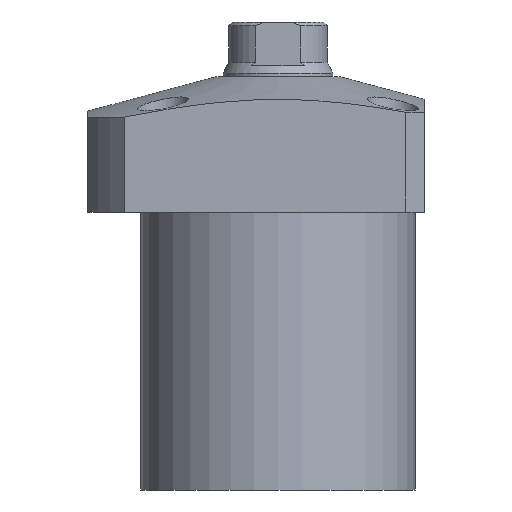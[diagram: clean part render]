
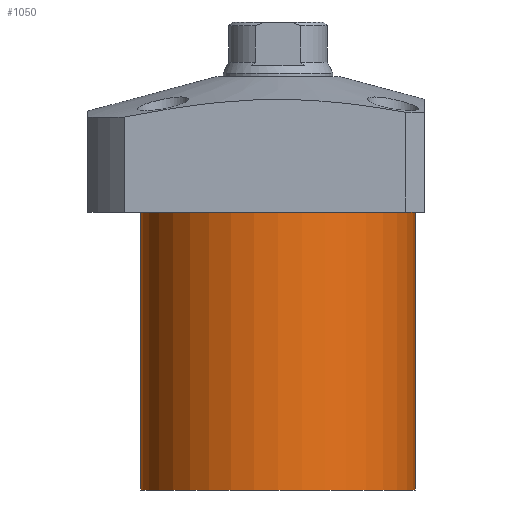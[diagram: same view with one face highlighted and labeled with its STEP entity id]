
A CAD part, front view. The second image highlights one B-rep face of the part: STEP entity #1050.
In plain terms, the highlighted cylindrical face has radius 37.5 mm (diameter 75 mm), a partial arc.
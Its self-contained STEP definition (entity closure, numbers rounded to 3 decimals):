
#35 = DIRECTION ( 'NONE',  ( 0., 0., 1. ) ) ;
#48 = EDGE_CURVE ( 'NONE', #1590, #810, #1524, .T. ) ;
#88 = VECTOR ( 'NONE', #2145, 1000. ) ;
#90 = ORIENTED_EDGE ( 'NONE', *, *, #48, .T. ) ;
#205 = DIRECTION ( 'NONE',  ( 1., 0., 0. ) ) ;
#370 = DIRECTION ( 'NONE',  ( 0., 0., 1. ) ) ;
#611 = CARTESIAN_POINT ( 'NONE',  ( 37.5, 0., -18.5 ) ) ;
#659 = CARTESIAN_POINT ( 'NONE',  ( -37.5, 0., -18.5 ) ) ;
#722 = VERTEX_POINT ( 'NONE', #1742 ) ;
#762 = CYLINDRICAL_SURFACE ( 'NONE', #1139, 37.5 ) ;
#775 = CARTESIAN_POINT ( 'NONE',  ( 0., 0., -94.5 ) ) ;
#810 = VERTEX_POINT ( 'NONE', #611 ) ;
#910 = VERTEX_POINT ( 'NONE', #659 ) ;
#990 = DIRECTION ( 'NONE',  ( 0., 0., -1. ) ) ;
#995 = ORIENTED_EDGE ( 'NONE', *, *, #1932, .F. ) ;
#1050 = ADVANCED_FACE ( 'NONE', ( #1763 ), #762, .T. ) ;
#1083 = CARTESIAN_POINT ( 'NONE',  ( 37.5, 0., -94.5 ) ) ;
#1098 = VECTOR ( 'NONE', #370, 1000. ) ;
#1139 = AXIS2_PLACEMENT_3D ( 'NONE', #1427, #35, #2033 ) ;
#1144 = DIRECTION ( 'NONE',  ( 0., 0., -1. ) ) ;
#1169 = CARTESIAN_POINT ( 'NONE',  ( -37.5, 0., -94.5 ) ) ;
#1361 = CARTESIAN_POINT ( 'NONE',  ( 37.5, 0., -94.5 ) ) ;
#1407 = ORIENTED_EDGE ( 'NONE', *, *, #2096, .T. ) ;
#1427 = CARTESIAN_POINT ( 'NONE',  ( 0., 0., -94.5 ) ) ;
#1524 = LINE ( 'NONE', #1361, #88 ) ;
#1563 = CIRCLE ( 'NONE', #1947, 37.5 ) ;
#1590 = VERTEX_POINT ( 'NONE', #1083 ) ;
#1742 = CARTESIAN_POINT ( 'NONE',  ( -37.5, 0., -94.5 ) ) ;
#1747 = DIRECTION ( 'NONE',  ( -1., 0., 0. ) ) ;
#1763 = FACE_OUTER_BOUND ( 'NONE', #1786, .T. ) ;
#1786 = EDGE_LOOP ( 'NONE', ( #995, #1847, #90, #1407 ) ) ;
#1847 = ORIENTED_EDGE ( 'NONE', *, *, #1964, .F. ) ;
#1932 = EDGE_CURVE ( 'NONE', #722, #910, #2292, .T. ) ;
#1947 = AXIS2_PLACEMENT_3D ( 'NONE', #1979, #990, #205 ) ;
#1964 = EDGE_CURVE ( 'NONE', #1590, #722, #2225, .T. ) ;
#1976 = AXIS2_PLACEMENT_3D ( 'NONE', #775, #1144, #1747 ) ;
#1979 = CARTESIAN_POINT ( 'NONE',  ( 0., 0., -18.5 ) ) ;
#2033 = DIRECTION ( 'NONE',  ( 1., 0., 0. ) ) ;
#2096 = EDGE_CURVE ( 'NONE', #810, #910, #1563, .T. ) ;
#2145 = DIRECTION ( 'NONE',  ( 0., 0., 1. ) ) ;
#2225 = CIRCLE ( 'NONE', #1976, 37.5 ) ;
#2292 = LINE ( 'NONE', #1169, #1098 ) ;
